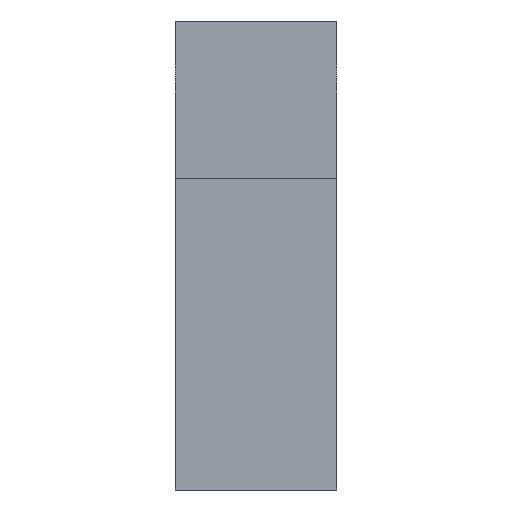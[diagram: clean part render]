
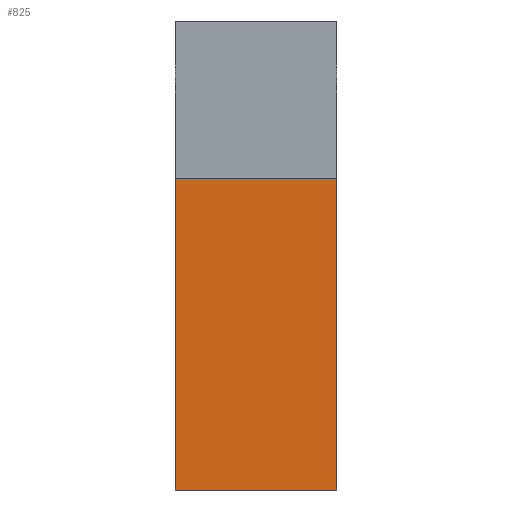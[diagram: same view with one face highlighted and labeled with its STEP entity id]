
A CAD part, front view. The second image highlights one B-rep face of the part: STEP entity #825.
In plain terms, the highlighted planar face has unit normal (0, -1, 0).
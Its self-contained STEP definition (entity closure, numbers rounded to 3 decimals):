
#7 = CARTESIAN_POINT ( 'NONE',  ( -4.15, -5., -42.5 ) ) ;
#43 = LINE ( 'NONE', #601, #79 ) ;
#44 = CARTESIAN_POINT ( 'NONE',  ( -4.15, -5., -26.5 ) ) ;
#50 = CARTESIAN_POINT ( 'NONE',  ( 4.15, -5., -42.5 ) ) ;
#62 = ORIENTED_EDGE ( 'NONE', *, *, #433, .T. ) ;
#68 = CARTESIAN_POINT ( 'NONE',  ( 4.15, -5., -26.5 ) ) ;
#72 = VECTOR ( 'NONE', #207, 1000. ) ;
#79 = VECTOR ( 'NONE', #357, 1000. ) ;
#87 = EDGE_CURVE ( 'NONE', #213, #986, #622, .T. ) ;
#161 = PLANE ( 'NONE',  #270 ) ;
#193 = FACE_OUTER_BOUND ( 'NONE', #755, .T. ) ;
#207 = DIRECTION ( 'NONE',  ( 0., 0., 1. ) ) ;
#213 = VERTEX_POINT ( 'NONE', #50 ) ;
#253 = EDGE_CURVE ( 'NONE', #826, #998, #1015, .T. ) ;
#270 = AXIS2_PLACEMENT_3D ( 'NONE', #640, #943, #950 ) ;
#295 = DIRECTION ( 'NONE',  ( -1., 0., 0. ) ) ;
#357 = DIRECTION ( 'NONE',  ( -1., 0., 0. ) ) ;
#416 = DIRECTION ( 'NONE',  ( 0., 0., 1. ) ) ;
#433 = EDGE_CURVE ( 'NONE', #986, #998, #648, .T. ) ;
#443 = VECTOR ( 'NONE', #295, 1000. ) ;
#444 = ORIENTED_EDGE ( 'NONE', *, *, #253, .F. ) ;
#452 = CARTESIAN_POINT ( 'NONE',  ( -4.15, -5., -42.5 ) ) ;
#486 = VECTOR ( 'NONE', #416, 1000. ) ;
#601 = CARTESIAN_POINT ( 'NONE',  ( 4.15, -5., -42.5 ) ) ;
#622 = LINE ( 'NONE', #666, #486 ) ;
#640 = CARTESIAN_POINT ( 'NONE',  ( 4.15, -5., -42.5 ) ) ;
#648 = LINE ( 'NONE', #938, #443 ) ;
#666 = CARTESIAN_POINT ( 'NONE',  ( 4.15, -5., -42.5 ) ) ;
#687 = EDGE_CURVE ( 'NONE', #213, #826, #43, .T. ) ;
#755 = EDGE_LOOP ( 'NONE', ( #948, #62, #444, #949 ) ) ;
#825 = ADVANCED_FACE ( 'NONE', ( #193 ), #161, .F. ) ;
#826 = VERTEX_POINT ( 'NONE', #7 ) ;
#938 = CARTESIAN_POINT ( 'NONE',  ( 4.15, -5., -26.5 ) ) ;
#943 = DIRECTION ( 'NONE',  ( 0., 1., 0. ) ) ;
#948 = ORIENTED_EDGE ( 'NONE', *, *, #87, .T. ) ;
#949 = ORIENTED_EDGE ( 'NONE', *, *, #687, .F. ) ;
#950 = DIRECTION ( 'NONE',  ( 0., 0., 1. ) ) ;
#986 = VERTEX_POINT ( 'NONE', #68 ) ;
#998 = VERTEX_POINT ( 'NONE', #44 ) ;
#1015 = LINE ( 'NONE', #452, #72 ) ;
